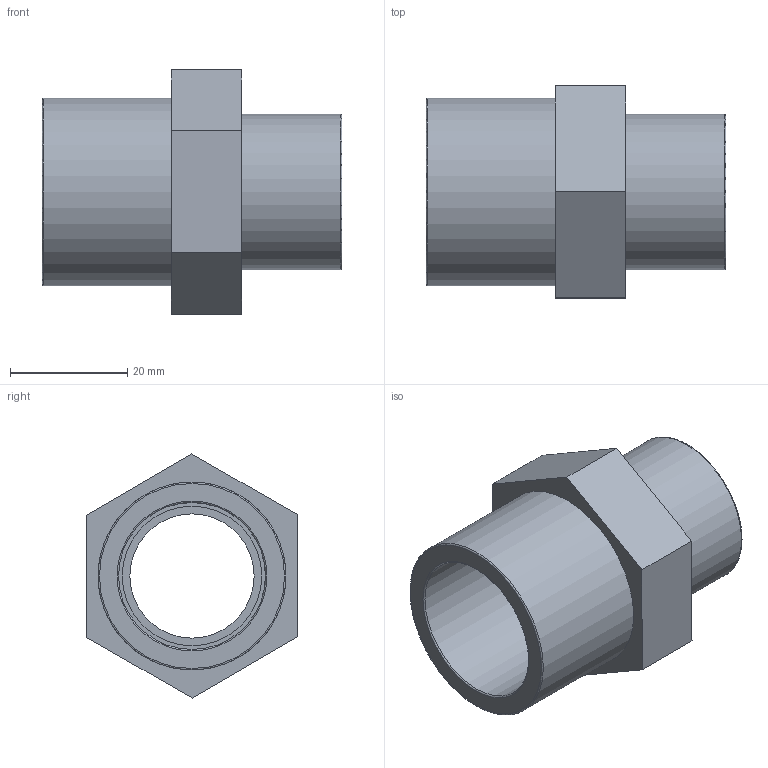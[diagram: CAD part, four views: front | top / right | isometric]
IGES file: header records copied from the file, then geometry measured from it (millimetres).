
Global section: file name: 052102025007.ipt; native system: Autodesk Inventor 2015; preprocessor: unknown; author: KIM; date: 20171207.165355; units: millimetre
Bounding box: 51 x 36.08 x 41.57 mm (x, y, z)
Volume: 18857.5 mm3; surface area: 10340.4 mm2
Topology: 1 solids, 1 shells, 21 faces, 55 edges, 40 vertices
Faces by surface type: plane 12, revolution 7, cylinder 2
Full cylindrical faces by diameter (mm): 26.441 x1, 32 x1
